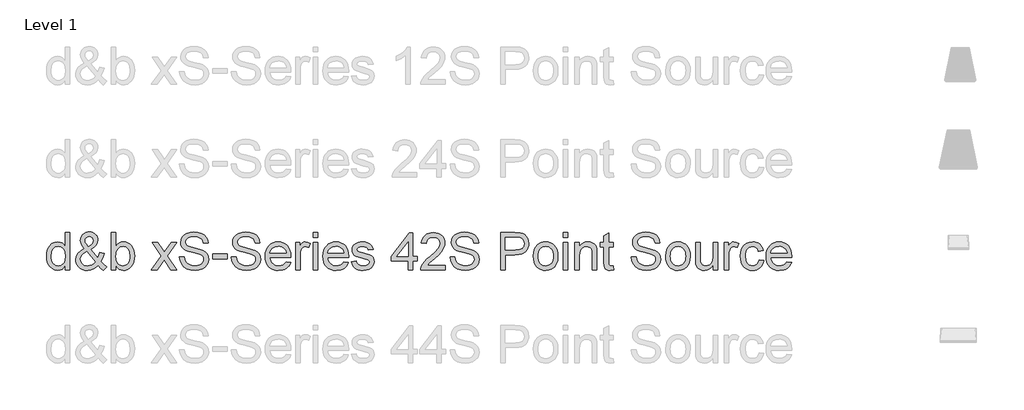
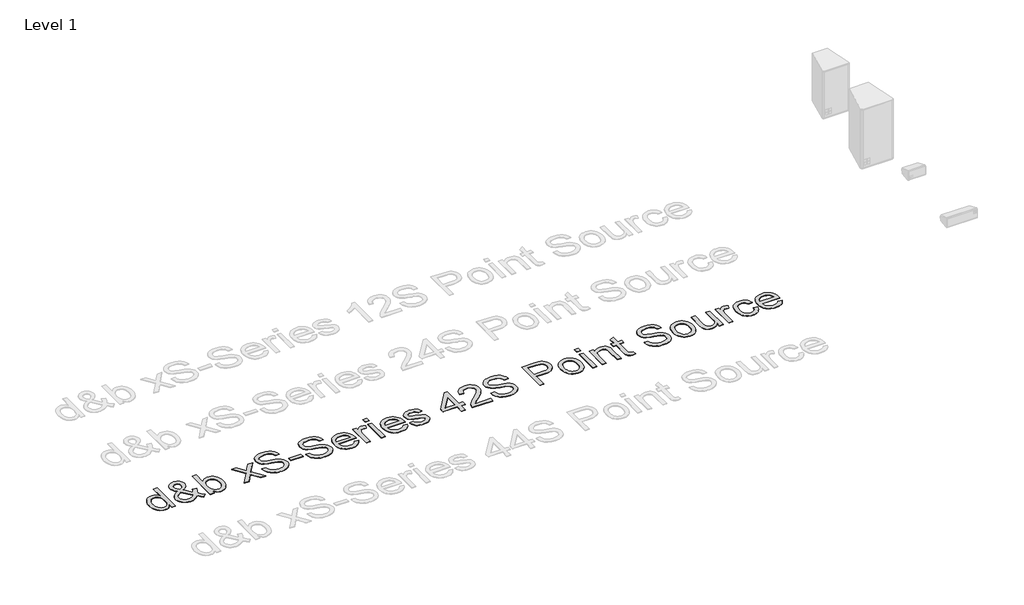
# One storey, part 44 of 55: 1 proxy.
"""IFC4 building model written with IfcOpenShell, lengths in millimetres."""

from ifc_helpers import new_model, si_unit, origin, origin_with_axes, place, context, project, spatial, polyline, outline, extrude, element, save

model = new_model("IFC4")

# Units and contexts
model_context = context("Model", 3, world=origin())
ifc_project = project(units=[si_unit("LENGTHUNIT", "METRE", prefix="MILLI")], contexts=[model_context])

# Site, building, storey
site = spatial("IfcSite", under=ifc_project)
building = spatial("IfcBuilding", under=site)
storey = spatial("IfcBuildingStorey", under=building, Name="Level 1", Elevation=0.0)

# Proxy
placement = place(None, origin())
element("IfcBuildingElementProxy", 1, Name="400mm Arial", ObjectType="400mm Arial", at=placement, inside=storey, context=model_context, shape_type="SweptSolid", body=[
    extrude(outline(polyline([(-20879.8211974, 10351.3054836), (-20879.8211974, 10398.6886846), (-20894.8491769, 10375.2116819), (-20913.0532043, 10358.4423943), (-20934.4332796, 10348.3808217), (-20958.9894028, 10345.0269642), (-20991.4611202, 10349.8830065), (-21021.1859854, 10364.4511335), (-21046.3491139, 10387.7135384), (-21065.1356211, 10418.6524142), (-21076.8342686, 10456.0169621), (-21080.7338177, 10498.5563835), (-21077.1408369, 10540.5685074), (-21066.3618944, 10578.5094038), (-21048.4092531, 10610.2208318), (-21023.2951755, 10633.5445503), (-20992.9203855, 10647.8919481), (-20959.1856065, 10652.674414), (-20934.6110892, 10649.2531115), (-20912.8815261, 10638.9892038), (-20894.4629008, 10623.2561171), (-20879.8211974, 10603.4272776), (-20879.8211974, 10753.1307242), (-20829.5930424, 10753.1307242), (-20829.5930424, 10351.3054836), (-20879.8211974, 10351.3054836)]), holes=[polyline([(-21030.5056627, 10498.7525872), (-21029.089317, 10474.3957335), (-21024.8402799, 10453.3191608), (-21017.7585515, 10435.5228693), (-21007.8441318, 10421.0068589), (-20983.1469871, 10401.6930542), (-20969.2717046, 10396.864603), (-20954.3786151, 10395.2551193), (-20939.415015, 10396.7910266), (-20925.6225058, 10401.3987486), (-20901.5507606, 10419.8296365), (-20892.0440767, 10433.7386416), (-20885.2535882, 10450.8911397), (-20879.8211974, 10494.9266145), (-20885.3516901, 10543.0701049), (-20892.2648059, 10561.6052261), (-20901.9431681, 10576.4492646), (-20913.6448812, 10587.8229496), (-20926.6280499, 10595.9470104), (-20940.8926743, 10600.8214468), (-20956.4387543, 10602.4462589), (-20971.6261493, 10600.8858262), (-20985.5014319, 10596.2045278), (-20998.064602, 10588.4023638), (-21009.3156597, 10577.4793342), (-21018.586286, 10563.1963157), (-21025.2081619, 10545.3141851), (-21030.5056627, 10498.7525872)])]), origin_with_axes(), (0.0, 0.0, 1.0), 5.0),
    extrude(outline(polyline([(-20523.809528, 10400.9450275), (-20549.3405384, 10376.4808748), (-20577.0788409, 10359.00648), (-20607.0734862, 10348.5218431), (-20639.3735254, 10345.0269642), (-20668.6814577, 10347.6144009), (-20694.8010793, 10355.376711), (-20717.7323904, 10368.3138945), (-20737.4753908, 10386.4259514), (-20750.308341, 10403.7961129), (-20759.4747341, 10422.1595558), (-20764.9745699, 10441.5162802), (-20766.8078485, 10461.8662859), (-20760.9094739, 10497.0603301), (-20743.2143499, 10528.6736562), (-20713.796053, 10556.6817387), (-20672.7281596, 10581.0600523), (-20694.6416638, 10609.4114914), (-20707.7995765, 10631.8768186), (-20714.3846642, 10651.0557332), (-20716.5796934, 10669.5479349), (-20714.8506481, 10687.1020374), (-20709.6635119, 10703.4666548), (-20701.018285, 10718.6417871), (-20688.9149674, 10732.6274343), (-20674.1935562, 10744.3444759), (-20657.6940487, 10752.7137912), (-20639.4164449, 10757.7353805), (-20619.3607448, 10759.4092436), (-20600.212487, 10757.8089569), (-20582.8913764, 10753.0080968), (-20567.397413, 10745.0066634), (-20553.7305969, 10733.8046567), (-20542.5715097, 10720.3585698), (-20534.6007332, 10705.6248959), (-20529.8182672, 10689.603635), (-20528.2241119, 10672.2947871), (-20532.9452642, 10644.31123), (-20547.108721, 10618.436863), (-20570.7144823, 10594.6716861), (-20603.7625482, 10573.0156993), (-20531.069066, 10482.4676776), (-20518.6837055, 10508.3420446), (-20509.3885538, 10538.0914353), (-20459.1603987, 10527.2021282), (-20474.6114425, 10480.6773185), (-20494.6732739, 10444.5022557), (-20466.1256311, 10411.1966724), (-20434.0463211, 10383.6790991), (-20471.7174374, 10345.0269642), (-20497.3465498, 10368.47331), (-20523.809528, 10400.9450275)]), holes=[polyline([(-20557.4584678, 10437.1446158), (-20647.1235727, 10549.0788442), (-20681.3733865, 10527.2266537), (-20702.305872, 10506.9931439), (-20713.0112381, 10487.6670765), (-20716.5796934, 10468.5372127), (-20711.6991256, 10444.8456122), (-20697.0574222, 10420.2710949), (-20686.2784798, 10409.3266056), (-20673.4639236, 10401.5091132), (-20658.6137537, 10396.8186177), (-20641.7279702, 10395.2551193), (-20619.0051256, 10398.1736498), (-20595.5710425, 10406.9292412), (-20574.1480476, 10420.3201459), (-20557.4584678, 10437.1446158)]), polyline([(-20629.1709314, 10604.7026019), (-20602.9041569, 10621.3676562), (-20587.8700461, 10635.8499441), (-20580.8067117, 10649.9398245), (-20578.452267, 10665.4276565), (-20581.5547385, 10682.9756277), (-20590.862153, 10696.9674062), (-20604.829406, 10706.1276679), (-20621.9113933, 10709.1810885), (-20639.3612626, 10706.1521934), (-20653.6473468, 10697.0655081), (-20663.1754905, 10683.6132898), (-20666.3515384, 10667.4877957), (-20662.0350563, 10649.0936959), (-20648.9875082, 10628.639457), (-20629.1709314, 10604.7026019)])]), origin_with_axes(), (0.0, 0.0, 1.0), 5.0),
    extrude(outline(polyline([(-20333.590011, 10351.3054836), (-20383.8181661, 10351.3054836), (-20383.8181661, 10753.1307242), (-20333.590011, 10753.1307242), (-20333.590011, 10604.1139907), (-20317.0721094, 10625.3591759), (-20298.4204923, 10640.5343082), (-20277.6351595, 10649.6393876), (-20254.7161112, 10652.674414), (-20228.8417442, 10649.9398245), (-20204.3898543, 10641.736056), (-20182.758393, 10628.5781433), (-20165.3453119, 10610.9811212), (-20151.6968898, 10589.116668), (-20141.3594058, 10563.1564619), (-20134.8478945, 10534.1796234), (-20132.6773907, 10503.265273), (-20134.9245365, 10467.5929822), (-20141.6659741, 10436.2126481), (-20152.9017034, 10409.1242705), (-20168.6317244, 10386.3278495), (-20187.5132678, 10368.2587122), (-20208.2035643, 10355.3521855), (-20230.702614, 10347.6082695), (-20255.0104168, 10345.0269642), (-20278.6836232, 10348.3562962), (-20299.671291, 10358.3442924), (-20317.9734203, 10374.9909527), (-20333.590011, 10398.2962771), (-20333.590011, 10351.3054836)]), holes=[polyline([(-20333.590011, 10500.9108283), (-20330.1564457, 10459.0213318), (-20319.8557498, 10430.6698927), (-20307.6849872, 10415.1759293), (-20293.5399244, 10404.1088126), (-20277.4205617, 10397.4685426), (-20259.3268989, 10395.2551193), (-20244.3050508, 10396.8860628), (-20230.3377977, 10401.7788933), (-20217.4251396, 10409.9336109), (-20205.5670767, 10421.3502155), (-20195.6526569, 10435.9980502), (-20188.5709285, 10453.8464584), (-20184.3218914, 10474.8954399), (-20182.9055458, 10499.1449947), (-20188.3379366, 10545.1057186), (-20195.1284251, 10562.8989445), (-20204.6351089, 10577.2340795), (-20216.0670419, 10588.264408), (-20228.6332778, 10596.1432141), (-20242.3338164, 10600.8704977), (-20257.1686579, 10602.4462589), (-20272.190506, 10600.8153154), (-20286.1577591, 10595.9224849), (-20299.0704171, 10587.7677673), (-20310.9284801, 10576.3511628), (-20320.8428999, 10561.8504808), (-20327.9246283, 10544.443531), (-20332.1736653, 10524.1303135), (-20333.590011, 10500.9108283)])]), origin_with_axes(), (0.0, 0.0, 1.0), 5.0),
    extrude(outline(polyline([(-19950.6003285, 10351.3054836), (-19843.2768878, 10499.7336059), (-19944.3218092, 10646.3958946), (-19884.0872638, 10646.3958946), (-19835.3306367, 10575.6644497), (-19812.4729021, 10542.4079173), (-19792.6563253, 10569.6802359), (-19737.1306695, 10646.3958946), (-19676.6999204, 10646.3958946), (-19782.8461387, 10499.635504), (-19680.623995, 10351.3054836), (-19740.9566422, 10351.3054836), (-19802.5646137, 10440.5781811), (-19813.7482263, 10456.9611926), (-19890.1695795, 10351.3054836), (-19950.6003285, 10351.3054836)])), origin_with_axes(), (0.0, 0.0, 1.0), 5.0),
    extrude(outline(polyline([(-19649.2313981, 10489.43291), (-19599.003243, 10489.43291), (-19593.2397584, 10461.5597175), (-19582.8164352, 10439.155704), (-19566.556051, 10421.3747409), (-19543.2813835, 10407.3706996), (-19514.8318425, 10398.2840144), (-19483.0468381, 10395.2551193), (-19455.063281, 10397.5482504), (-19430.5623402, 10404.4276437), (-19410.7089752, 10415.3169507), (-19396.6681457, 10429.6398231), (-19388.3172244, 10446.0841483), (-19385.533584, 10463.3378138), (-19387.6182486, 10480.150021), (-19393.8722425, 10494.6813598), (-19406.5764341, 10507.0789831), (-19428.0116917, 10517.4900435), (-19501.1466323, 10536.6689582), (-19549.1552327, 10549.360887), (-19579.8733793, 10561.4396792), (-19604.8770922, 10578.3377255), (-19622.5967416, 10598.8164899), (-19633.1549549, 10622.434514), (-19636.6743593, 10648.7503394), (-19632.3210891, 10678.1686363), (-19619.2612782, 10705.6003704), (-19597.8382834, 10728.8505125), (-19568.395461, 10745.7240333), (-19533.054264, 10755.987941), (-19493.9361452, 10759.4092436), (-19451.5561394, 10755.8285255), (-19414.4736342, 10745.0863712), (-19384.013005, 10727.40351), (-19361.4986269, 10703.000671), (-19347.249331, 10673.3984331), (-19341.5839483, 10640.1173753), (-19391.8121033, 10640.1173753), (-19401.0336787, 10670.0874951), (-19409.3968627, 10681.9455581), (-19420.2616443, 10691.7189564), (-19450.3053406, 10704.8155555), (-19491.9741079, 10709.1810885), (-19534.6238939, 10704.8646064), (-19550.9271976, 10699.4690038), (-19563.8827752, 10691.9151602), (-19580.805347, 10672.8588728), (-19586.4462043, 10650.2218674), (-19582.4485532, 10630.9203254), (-19570.4556002, 10615.3957052), (-19542.1041611, 10601.5142912), (-19488.4424407, 10587.3385717), (-19433.0639377, 10573.8740907), (-19399.5621507, 10562.1263923), (-19370.9286687, 10543.9039708), (-19350.9526764, 10521.4141181), (-19339.2172408, 10494.902089), (-19335.3054289, 10464.6131381), (-19339.805852, 10433.6497368), (-19353.3071212, 10404.5257455), (-19375.2574136, 10379.4607189), (-19405.1049061, 10360.6742117), (-19440.9979261, 10348.9387761), (-19481.0848008, 10345.0269642), (-19530.2951491, 10349.2453444), (-19570.7989567, 10361.900485), (-19603.0622077, 10383.041437), (-19627.5508858, 10412.7172513), (-19643.2717098, 10448.8677887), (-19649.2313981, 10489.43291)])), origin_with_axes(), (0.0, 0.0, 1.0), 5.0),
    extrude(outline(polyline([(-19291.3557932, 10470.5973519), (-19291.3557932, 10520.825507), (-19134.3928086, 10520.825507), (-19134.3928086, 10470.5973519), (-19291.3557932, 10470.5973519)])), origin_with_axes(), (0.0, 0.0, 1.0), 5.0),
    extrude(outline(polyline([(-19090.4431729, 10489.43291), (-19040.2150178, 10489.43291), (-19034.4515332, 10461.5597175), (-19024.02821, 10439.155704), (-19007.7678258, 10421.3747409), (-18984.4931583, 10407.3706996), (-18956.0436173, 10398.2840144), (-18924.2586129, 10395.2551193), (-18896.2750558, 10397.5482504), (-18871.774115, 10404.4276437), (-18851.9207499, 10415.3169507), (-18837.8799205, 10429.6398231), (-18829.5289992, 10446.0841483), (-18826.7453587, 10463.3378138), (-18828.8300234, 10480.150021), (-18835.0840173, 10494.6813598), (-18847.7882089, 10507.0789831), (-18869.2234665, 10517.4900435), (-18942.3584071, 10536.6689582), (-18990.3670075, 10549.360887), (-19021.0851541, 10561.4396792), (-19046.088867, 10578.3377255), (-19063.8085164, 10598.8164899), (-19074.3667297, 10622.434514), (-19077.8861341, 10648.7503394), (-19073.5328638, 10678.1686363), (-19060.473053, 10705.6003704), (-19039.0500582, 10728.8505125), (-19009.6072358, 10745.7240333), (-18974.2660388, 10755.987941), (-18935.14792, 10759.4092436), (-18892.7679141, 10755.8285255), (-18855.685409, 10745.0863712), (-18825.2247798, 10727.40351), (-18802.7104017, 10703.000671), (-18788.4611058, 10673.3984331), (-18782.7957231, 10640.1173753), (-18833.0238781, 10640.1173753), (-18842.2454535, 10670.0874951), (-18850.6086375, 10681.9455581), (-18861.4734191, 10691.7189564), (-18891.5171154, 10704.8155555), (-18933.1858827, 10709.1810885), (-18975.8356687, 10704.8646064), (-18992.1389724, 10699.4690038), (-19005.09455, 10691.9151602), (-19022.0171218, 10672.8588728), (-19027.657979, 10650.2218674), (-19023.660328, 10630.9203254), (-19011.667375, 10615.3957052), (-18983.3159359, 10601.5142912), (-18929.6542155, 10587.3385717), (-18874.2757125, 10573.8740907), (-18840.7739255, 10562.1263923), (-18812.1404435, 10543.9039708), (-18792.1644512, 10521.4141181), (-18780.4290156, 10494.902089), (-18776.5172037, 10464.6131381), (-18781.0176267, 10433.6497368), (-18794.518896, 10404.5257455), (-18816.4691883, 10379.4607189), (-18846.3166809, 10360.6742117), (-18882.2097009, 10348.9387761), (-18922.2965756, 10345.0269642), (-18971.5069238, 10349.2453444), (-19012.0107315, 10361.900485), (-19044.2739825, 10383.041437), (-19068.7626606, 10412.7172513), (-19084.4834846, 10448.8677887), (-19090.4431729, 10489.43291)])), origin_with_axes(), (0.0, 0.0, 1.0), 5.0),
    extrude(outline(polyline([(-18500.850962, 10439.204755), (-18451.6038255, 10432.9262356), (-18459.1546035, 10413.2016293), (-18469.3480004, 10395.819205), (-18482.1840164, 10380.7789628), (-18497.6626513, 10368.0809026), (-18515.6244897, 10357.9948045), (-18535.9101161, 10350.7904488), (-18583.4527326, 10345.0269642), (-18614.618469, 10347.5132333), (-18642.3874282, 10354.9720408), (-18666.7596104, 10367.4033865), (-18687.7350155, 10384.8072706), (-18704.602405, 10406.699315), (-18716.6505403, 10432.5951418), (-18723.8794215, 10462.4947509), (-18726.2890486, 10496.3981425), (-18723.8548961, 10531.4511652), (-18716.5524385, 10562.3471215), (-18704.3816758, 10589.0860112), (-18687.342608, 10611.6678343), (-18666.4223852, 10629.6082129), (-18642.6081574, 10642.4227691), (-18615.8999246, 10650.1115028), (-18586.2976867, 10652.674414), (-18557.6488763, 10650.1176342), (-18531.7407868, 10642.4472946), (-18508.5734182, 10629.6633952), (-18488.1467704, 10611.7659362), (-18471.472519, 10589.233164), (-18459.5623394, 10562.5433252), (-18452.4162316, 10531.6964199), (-18450.0341957, 10496.6924481), (-18450.3285013, 10483.1543906), (-18676.0608935, 10483.1543906), (-18673.1515601, 10463.1109533), (-18667.3666157, 10445.5568507), (-18658.7060604, 10430.492083), (-18647.1698942, 10417.9166502), (-18633.3957791, 10408.0022304), (-18618.0213774, 10400.920502), (-18582.4717139, 10395.2551193), (-18555.7389556, 10397.8793442), (-18533.2245775, 10405.7520189), (-18514.9285796, 10419.3636527), (-18500.850962, 10439.204755)]), holes=[polyline([(-18676.0608935, 10533.3825457), (-18500.2623508, 10533.3825457), (-18507.0559049, 10559.9191003), (-18520.3732332, 10578.9018113), (-18534.0707061, 10589.2025071), (-18549.65664, 10596.560147), (-18567.1310348, 10600.974731), (-18586.4938904, 10602.4462589), (-18620.3512967, 10597.7496321), (-18648.3471166, 10583.6597517), (-18667.8080741, 10561.6971966), (-18676.0608935, 10533.3825457)])]), origin_with_axes(), (0.0, 0.0, 1.0), 5.0),
    extrude(outline(polyline([(-18399.8060406, 10351.3054836), (-18399.8060406, 10646.3958946), (-18355.8564049, 10646.3958946), (-18355.8564049, 10602.7405645), (-18339.6205462, 10628.0508458), (-18324.6600117, 10642.9623293), (-18309.6504263, 10650.2463929), (-18293.2674148, 10652.674414), (-18268.2514391, 10648.7993903), (-18242.843056, 10637.1743193), (-18259.618475, 10592.1455631), (-18277.2768108, 10599.871085), (-18294.9351465, 10602.4462589), (-18309.9324692, 10599.9691868), (-18323.3356365, 10592.5379705), (-18334.1636299, 10580.7166958), (-18341.4354307, 10565.0694482), (-18347.5422718, 10537.0123147), (-18349.5778855, 10506.4045327), (-18349.5778855, 10351.3054836), (-18399.8060406, 10351.3054836)])), origin_with_axes(), (0.0, 0.0, 1.0), 5.0),
    extrude(outline(polyline([(-18211.4504591, 10702.9025691), (-18211.4504591, 10753.1307242), (-18161.222304, 10753.1307242), (-18161.222304, 10702.9025691), (-18211.4504591, 10702.9025691)])), origin_with_axes(), (0.0, 0.0, 1.0), 5.0),
    extrude(outline(polyline([(-18211.4504591, 10351.3054836), (-18211.4504591, 10646.3958946), (-18161.222304, 10646.3958946), (-18161.222304, 10351.3054836), (-18211.4504591, 10351.3054836)])), origin_with_axes(), (0.0, 0.0, 1.0), 5.0),
    extrude(outline(polyline([(-17879.2775429, 10439.204755), (-17830.0304065, 10432.9262356), (-17837.5811844, 10413.2016293), (-17847.7745814, 10395.819205), (-17860.6105973, 10380.7789628), (-17876.0892323, 10368.0809026), (-17894.0510707, 10357.9948045), (-17914.336697, 10350.7904488), (-17961.8793136, 10345.0269642), (-17993.0450499, 10347.5132333), (-18020.8140092, 10354.9720408), (-18045.1861914, 10367.4033865), (-18066.1615965, 10384.8072706), (-18083.0289859, 10406.699315), (-18095.0771213, 10432.5951418), (-18102.3060025, 10462.4947509), (-18104.7156295, 10496.3981425), (-18102.281477, 10531.4511652), (-18094.9790194, 10562.3471215), (-18082.8082567, 10589.0860112), (-18065.769189, 10611.6678343), (-18044.8489662, 10629.6082129), (-18021.0347384, 10642.4227691), (-17994.3265055, 10650.1115028), (-17964.7242676, 10652.674414), (-17936.0754573, 10650.1176342), (-17910.1673678, 10642.4472946), (-17886.9999991, 10629.6633952), (-17866.5733513, 10611.7659362), (-17849.8990999, 10589.233164), (-17837.9889203, 10562.5433252), (-17830.8428126, 10531.6964199), (-17828.4607766, 10496.6924481), (-17828.7550822, 10483.1543906), (-18054.4874745, 10483.1543906), (-18051.578141, 10463.1109533), (-18045.7931967, 10445.5568507), (-18037.1326413, 10430.492083), (-18025.5964751, 10417.9166502), (-18011.8223601, 10408.0022304), (-17996.4479584, 10400.920502), (-17960.8982949, 10395.2551193), (-17934.1655366, 10397.8793442), (-17911.6511585, 10405.7520189), (-17893.3551606, 10419.3636527), (-17879.2775429, 10439.204755)]), holes=[polyline([(-18054.4874745, 10533.3825457), (-17878.6889317, 10533.3825457), (-17885.4824859, 10559.9191003), (-17898.7998141, 10578.9018113), (-17912.4972871, 10589.2025071), (-17928.0832209, 10596.560147), (-17945.5576157, 10600.974731), (-17964.9204714, 10602.4462589), (-17998.7778777, 10597.7496321), (-18026.7736975, 10583.6597517), (-18046.234655, 10561.6971966), (-18054.4874745, 10533.3825457)])]), origin_with_axes(), (0.0, 0.0, 1.0), 5.0),
    extrude(outline(polyline([(-17797.0681797, 10439.204755), (-17746.8400246, 10445.4832743), (-17738.918299, 10423.9989658), (-17723.5898825, 10408.2045655), (-17700.7566734, 10398.4924808), (-17670.3205696, 10395.2551193), (-17640.2523479, 10398.2227007), (-17619.1113959, 10407.125445), (-17606.6034081, 10420.0258403), (-17602.4340788, 10434.9863747), (-17606.6279335, 10447.7886682), (-17619.2094978, 10457.5498038), (-17670.9091808, 10471.8726761), (-17746.545719, 10496.4471934), (-17765.6878455, 10508.7957657), (-17779.5569967, 10525.141989), (-17787.9814944, 10544.443531), (-17790.7896603, 10565.6580594), (-17788.5333174, 10585.119017), (-17781.7642887, 10603.0839211), (-17771.0957109, 10618.8415332), (-17757.1407205, 10631.6806148), (-17725.2085633, 10646.5430474), (-17704.3251287, 10651.1415724), (-17681.9946916, 10652.674414), (-17649.302245, 10650.2096047), (-17620.8772295, 10642.8151766), (-17598.0194949, 10631.214631), (-17582.0288908, 10616.1314692), (-17571.4338893, 10596.4497824), (-17564.7629625, 10571.053662), (-17614.9911176, 10564.7751426), (-17621.3309506, 10580.5818057), (-17633.8757267, 10592.4889196), (-17652.748073, 10599.9569241), (-17678.070617, 10602.4462589), (-17706.9125654, 10600.0672887), (-17726.140531, 10592.930378), (-17736.9562617, 10582.6296821), (-17740.5615053, 10570.7593564), (-17734.5772915, 10556.1421785), (-17715.8398352, 10545.0566677), (-17672.5769125, 10534.3635644), (-17598.8533607, 10510.7210148), (-17579.3801404, 10499.4147748), (-17564.6158097, 10483.9392056), (-17555.3083952, 10464.2452561), (-17552.2059237, 10440.2838755), (-17555.8479555, 10415.5131545), (-17566.7740507, 10392.2139614), (-17584.5672766, 10372.2134436), (-17608.8107, 10357.3387483), (-17638.0941069, 10348.1049102), (-17671.0072827, 10345.0269642), (-17698.040478, 10346.5107549), (-17721.6523707, 10350.962127), (-17741.8429609, 10358.3810806), (-17758.6122485, 10368.7676156), (-17772.3097214, 10382.0726811), (-17783.2848676, 10398.2472262), (-17791.5376871, 10417.2912508), (-17797.0681797, 10439.204755)])), origin_with_axes(), (0.0, 0.0, 1.0), 5.0),
    extrude(outline(polyline([(-17188.0517994, 10351.3054836), (-17188.0517994, 10445.4832743), (-17370.1288616, 10445.4832743), (-17370.1288616, 10495.7114294), (-17175.4947607, 10746.8522048), (-17137.8236444, 10746.8522048), (-17137.8236444, 10495.7114294), (-17087.5954893, 10495.7114294), (-17087.5954893, 10445.4832743), (-17137.8236444, 10445.4832743), (-17137.8236444, 10351.3054836), (-17188.0517994, 10351.3054836)]), holes=[polyline([(-17188.0517994, 10495.7114294), (-17188.0517994, 10650.9085804), (-17308.3246864, 10495.7114294), (-17188.0517994, 10495.7114294)])]), origin_with_axes(), (0.0, 0.0, 1.0), 5.0),
    extrude(outline(polyline([(-16786.2265588, 10401.5336386), (-16786.2265588, 10351.3054836), (-17049.924373, 10351.3054836), (-17048.820727, 10368.9883448), (-17044.5287704, 10385.9354421), (-17032.1311471, 10412.9992942), (-17013.9700393, 10439.2538059), (-16987.7155276, 10466.7345909), (-16951.0376927, 10497.477263), (-16896.8486748, 10545.6207534), (-16864.3646946, 10581.1581542), (-16848.1410986, 10610.0001026), (-16842.7332333, 10638.0572361), (-16847.846793, 10663.2081018), (-16863.1874722, 10684.1160619), (-16886.7687081, 10698.2059423), (-16916.6039379, 10702.9025691), (-16947.9352212, 10698.3163069), (-16972.2767465, 10684.5575203), (-16987.9853077, 10662.7053298), (-16993.4176985, 10633.8388559), (-17043.6458536, 10640.1173753), (-17039.3263058, 10666.0469245), (-17031.4689596, 10688.7023241), (-17020.0738147, 10708.0835739), (-17005.1408714, 10724.1906739), (-16987.0134861, 10736.8519459), (-16966.0350153, 10745.8957116), (-16942.2054591, 10751.321971), (-16915.5248174, 10753.1307242), (-16888.6050524, 10751.1196359), (-16864.6467375, 10745.0863712), (-16843.6498726, 10735.03093), (-16825.6144578, 10720.9533123), (-16811.1291042, 10703.8958505), (-16800.7824231, 10684.9008768), (-16794.5744144, 10663.9683913), (-16792.5050782, 10641.0983939), (-16794.7368957, 10617.0756996), (-16801.432348, 10593.4699383), (-16813.3149364, 10569.4595067), (-16831.1081622, 10544.2228018), (-16859.4718641, 10514.0932664), (-16903.0658805, 10475.4043433), (-16960.8478792, 10427.0891746), (-16983.5094101, 10401.5336386), (-16786.2265588, 10401.5336386)])), origin_with_axes(), (0.0, 0.0, 1.0), 5.0),
    extrude(outline(polyline([(-16735.9984038, 10489.43291), (-16685.7702487, 10489.43291), (-16680.0067641, 10461.5597175), (-16669.5834409, 10439.155704), (-16653.3230567, 10421.3747409), (-16630.0483891, 10407.3706996), (-16601.5988482, 10398.2840144), (-16569.8138438, 10395.2551193), (-16541.8302867, 10397.5482504), (-16517.3293458, 10404.4276437), (-16497.4759808, 10415.3169507), (-16483.4351513, 10429.6398231), (-16475.08423, 10446.0841483), (-16472.3005896, 10463.3378138), (-16474.3852543, 10480.150021), (-16480.6392482, 10494.6813598), (-16493.3434397, 10507.0789831), (-16514.7786973, 10517.4900435), (-16587.913638, 10536.6689582), (-16635.9222383, 10549.360887), (-16666.6403849, 10561.4396792), (-16691.6440979, 10578.3377255), (-16709.3637473, 10598.8164899), (-16719.9219606, 10622.434514), (-16723.441365, 10648.7503394), (-16719.0880947, 10678.1686363), (-16706.0282839, 10705.6003704), (-16684.605289, 10728.8505125), (-16655.1624667, 10745.7240333), (-16619.8212697, 10755.987941), (-16580.7031509, 10759.4092436), (-16538.323145, 10755.8285255), (-16501.2406399, 10745.0863712), (-16470.7800107, 10727.40351), (-16448.2656326, 10703.000671), (-16434.0163367, 10673.3984331), (-16428.3509539, 10640.1173753), (-16478.579109, 10640.1173753), (-16487.8006843, 10670.0874951), (-16496.1638684, 10681.9455581), (-16507.02865, 10691.7189564), (-16537.0723462, 10704.8155555), (-16578.7411136, 10709.1810885), (-16621.3908995, 10704.8646064), (-16637.6942033, 10699.4690038), (-16650.6497809, 10691.9151602), (-16667.5723527, 10672.8588728), (-16673.2132099, 10650.2218674), (-16669.2155589, 10630.9203254), (-16657.2226059, 10615.3957052), (-16628.8711668, 10601.5142912), (-16575.2094464, 10587.3385717), (-16519.8309434, 10573.8740907), (-16486.3291564, 10562.1263923), (-16457.6956744, 10543.9039708), (-16437.7196821, 10521.4141181), (-16425.9842464, 10494.902089), (-16422.0724345, 10464.6131381), (-16426.5728576, 10433.6497368), (-16440.0741268, 10404.5257455), (-16462.0244192, 10379.4607189), (-16491.8719118, 10360.6742117), (-16527.7649318, 10348.9387761), (-16567.8518065, 10345.0269642), (-16617.0621547, 10349.2453444), (-16657.5659624, 10361.900485), (-16689.8292134, 10383.041437), (-16714.3178915, 10412.7172513), (-16730.0387154, 10448.8677887), (-16735.9984038, 10489.43291)])), origin_with_axes(), (0.0, 0.0, 1.0), 5.0),
    extrude(outline(polyline([(-16189.7672173, 10351.3054836), (-16189.7672173, 10753.1307242), (-16040.8485857, 10753.1307242), (-15980.8102441, 10749.3047514), (-15954.0406975, 10742.155578), (-15932.004566, 10730.5182442), (-15914.2603911, 10713.8654526), (-15900.3667144, 10691.6699055), (-15891.3903938, 10665.4889702), (-15888.3982869, 10636.8800137), (-15890.4185722, 10612.2135259), (-15896.479428, 10589.5213382), (-15906.5808545, 10568.8034505), (-15920.7228515, 10550.0598628), (-15940.1378238, 10534.5229799), (-15966.0581761, 10523.4252064), (-15998.4839082, 10516.7665423), (-16037.4150204, 10514.5469876), (-16139.5390622, 10514.5469876), (-16139.5390622, 10351.3054836), (-16189.7672173, 10351.3054836)]), holes=[polyline([(-16139.5390622, 10564.7751426), (-16034.4719644, 10564.7751426), (-15989.9337175, 10569.3859303), (-15973.3299768, 10575.1494149), (-15960.5031579, 10583.2182933), (-15950.9320947, 10593.3779678), (-15944.0956209, 10605.4138404), (-15938.6264419, 10635.1141801), (-15941.8515408, 10657.6776092), (-15951.5268372, 10676.709371), (-15966.4505835, 10691.0322434), (-15985.4210317, 10699.4690038), (-16035.6491868, 10702.9025691), (-16139.5390622, 10702.9025691), (-16139.5390622, 10564.7751426)])]), origin_with_axes(), (0.0, 0.0, 1.0), 5.0),
    extrude(outline(polyline([(-15838.1701318, 10498.8506891), (-15835.4539364, 10537.067497), (-15827.3053502, 10569.999067), (-15813.7243732, 10597.6453989), (-15794.7110054, 10620.0064928), (-15775.5688789, 10634.2987084), (-15754.4401897, 10644.5074337), (-15731.3249377, 10650.6326689), (-15706.2231229, 10652.674414), (-15678.5124116, 10650.1881449), (-15653.456582, 10642.7293374), (-15631.0556342, 10630.2979917), (-15611.3095681, 10612.8941076), (-15595.193271, 10591.1062964), (-15583.6816303, 10565.5231694), (-15576.7746458, 10536.1447264), (-15574.4723177, 10502.9709675), (-15578.5435451, 10452.2277776), (-15590.7572273, 10413.6001681), (-15610.7577451, 10384.6723805), (-15638.1894792, 10363.0286565), (-15670.7715613, 10349.5273873), (-15706.2231229, 10345.0269642), (-15734.3385043, 10347.5040363), (-15759.6273258, 10354.9352526), (-15782.0895873, 10367.3206131), (-15801.7252888, 10384.6601178), (-15817.6699076, 10406.6594611), (-15829.058921, 10433.0243374), (-15835.8923291, 10463.7547468), (-15838.1701318, 10498.8506891)]), holes=[polyline([(-15787.9419767, 10498.948791), (-15786.4888428, 10474.5858058), (-15782.1294412, 10453.4908391), (-15774.8637718, 10435.6638907), (-15764.6918346, 10421.1049608), (-15752.3187369, 10409.7956551), (-15738.4495856, 10401.7175796), (-15723.084381, 10396.8707344), (-15706.2231229, 10395.2551193), (-15689.4477039, 10396.8799314), (-15674.1438129, 10401.7543678), (-15660.3114499, 10409.8784286), (-15647.9506148, 10421.2521136), (-15637.7786777, 10435.9551307), (-15630.5130083, 10454.0671876), (-15626.1536066, 10475.5882843), (-15624.7004727, 10500.5184208), (-15626.1628037, 10524.1088538), (-15630.5497965, 10544.6519975), (-15637.8614511, 10562.1478521), (-15648.0977676, 10576.5964174), (-15660.5045879, 10587.9057231), (-15674.3277539, 10595.9837986), (-15689.5672655, 10600.8306439), (-15706.2231229, 10602.4462589), (-15723.084381, 10600.8367752), (-15738.4495856, 10596.008324), (-15752.3187369, 10587.9609054), (-15764.6918346, 10576.6945193), (-15774.8637718, 10562.1785089), (-15782.1294412, 10544.3822174), (-15786.4888428, 10523.3056447), (-15787.9419767, 10498.948791)])]), origin_with_axes(), (0.0, 0.0, 1.0), 5.0),
    extrude(outline(polyline([(-15517.9656432, 10351.3054836), (-15517.9656432, 10646.3958946), (-15467.7374881, 10646.3958946), (-15467.7374881, 10351.3054836), (-15517.9656432, 10351.3054836)])), origin_with_axes(), (0.0, 0.0, 1.0), 5.0),
    extrude(outline(polyline([(-15517.9656432, 10702.9025691), (-15517.9656432, 10753.1307242), (-15467.7374881, 10753.1307242), (-15467.7374881, 10702.9025691), (-15517.9656432, 10702.9025691)])), origin_with_axes(), (0.0, 0.0, 1.0), 5.0),
    extrude(outline(polyline([(-15392.3952555, 10351.3054836), (-15392.3952555, 10646.3958946), (-15342.1671004, 10646.3958946), (-15342.1671004, 10605.1931112), (-15324.7172311, 10625.9661812), (-15303.7602201, 10640.8040883), (-15279.2960675, 10649.7068326), (-15251.3247731, 10652.674414), (-15226.5663148, 10650.2831811), (-15203.8925212, 10643.1094821), (-15184.9833866, 10632.0484968), (-15171.5189056, 10617.9954046), (-15162.3831694, 10600.9869937), (-15156.4602693, 10581.0600523), (-15153.8115189, 10532.4996289), (-15153.8115189, 10351.3054836), (-15204.039674, 10351.3054836), (-15204.039674, 10525.7306002), (-15205.4866765, 10551.7030691), (-15209.827684, 10570.1707452), (-15217.8352488, 10583.4022343), (-15230.281923, 10593.666142), (-15246.2357388, 10600.2512297), (-15264.7647286, 10602.4462589), (-15294.1830255, 10597.5166402), (-15319.2603149, 10582.727784), (-15329.2820336, 10570.6551232), (-15336.440404, 10554.1556157), (-15340.7354263, 10533.2292616), (-15342.1671004, 10507.8760607), (-15342.1671004, 10351.3054836), (-15392.3952555, 10351.3054836)])), origin_with_axes(), (0.0, 0.0, 1.0), 5.0),
    extrude(outline(polyline([(-14978.0129761, 10393.1949801), (-14971.7344568, 10349.8339556), (-15009.3074712, 10345.0269642), (-15033.4160046, 10347.1116288), (-15051.3931714, 10353.3656227), (-15064.097363, 10363.004131), (-15072.3869706, 10375.2423387), (-15076.9487074, 10396.2606634), (-15078.4692863, 10432.2395225), (-15078.4692863, 10596.1677396), (-15116.1404026, 10596.1677396), (-15116.1404026, 10646.3958946), (-15078.4692863, 10646.3958946), (-15078.4692863, 10718.1083582), (-15028.2411312, 10747.6370197), (-15028.2411312, 10646.3958946), (-14978.0129761, 10646.3958946), (-14978.0129761, 10596.1677396), (-15028.2411312, 10596.1677396), (-15028.2411312, 10433.7110505), (-15025.5923808, 10407.812158), (-15017.0084676, 10398.6396336), (-14999.8896921, 10395.2551193), (-14978.0129761, 10393.1949801)])), origin_with_axes(), (0.0, 0.0, 1.0), 5.0),
    extrude(outline(polyline([(-14783.3788752, 10489.43291), (-14733.1507201, 10489.43291), (-14727.3872356, 10461.5597175), (-14716.9639124, 10439.155704), (-14700.7035282, 10421.3747409), (-14677.4288606, 10407.3706996), (-14648.9793197, 10398.2840144), (-14617.1943153, 10395.2551193), (-14589.2107582, 10397.5482504), (-14564.7098173, 10404.4276437), (-14544.8564523, 10415.3169507), (-14530.8156228, 10429.6398231), (-14522.4647015, 10446.0841483), (-14519.6810611, 10463.3378138), (-14521.7657257, 10480.150021), (-14528.0197196, 10494.6813598), (-14540.7239112, 10507.0789831), (-14562.1591688, 10517.4900435), (-14635.2941094, 10536.6689582), (-14683.3027098, 10549.360887), (-14714.0208564, 10561.4396792), (-14739.0245693, 10578.3377255), (-14756.7442188, 10598.8164899), (-14767.302432, 10622.434514), (-14770.8218365, 10648.7503394), (-14766.4685662, 10678.1686363), (-14753.4087554, 10705.6003704), (-14731.9857605, 10728.8505125), (-14702.5429382, 10745.7240333), (-14667.2017411, 10755.987941), (-14628.0836223, 10759.4092436), (-14585.7036165, 10755.8285255), (-14548.6211114, 10745.0863712), (-14518.1604822, 10727.40351), (-14495.6461041, 10703.000671), (-14481.3968081, 10673.3984331), (-14475.7314254, 10640.1173753), (-14525.9595805, 10640.1173753), (-14535.1811558, 10670.0874951), (-14543.5443398, 10681.9455581), (-14554.4091214, 10691.7189564), (-14584.4528177, 10704.8155555), (-14626.121585, 10709.1810885), (-14668.771371, 10704.8646064), (-14685.0746747, 10699.4690038), (-14698.0302523, 10691.9151602), (-14714.9528241, 10672.8588728), (-14720.5936814, 10650.2218674), (-14716.5960304, 10630.9203254), (-14704.6030773, 10615.3957052), (-14676.2516382, 10601.5142912), (-14622.5899179, 10587.3385717), (-14567.2114149, 10573.8740907), (-14533.7096278, 10562.1263923), (-14505.0761459, 10543.9039708), (-14485.1001535, 10521.4141181), (-14473.3647179, 10494.902089), (-14469.452906, 10464.6131381), (-14473.9533291, 10433.6497368), (-14487.4545983, 10404.5257455), (-14509.4048907, 10379.4607189), (-14539.2523832, 10360.6742117), (-14575.1454032, 10348.9387761), (-14615.232278, 10345.0269642), (-14664.4426262, 10349.2453444), (-14704.9464339, 10361.900485), (-14737.2096848, 10383.041437), (-14761.698363, 10412.7172513), (-14777.4191869, 10448.8677887), (-14783.3788752, 10489.43291)])), origin_with_axes(), (0.0, 0.0, 1.0), 5.0),
    extrude(outline(polyline([(-14412.9462315, 10498.8506891), (-14410.2300362, 10537.067497), (-14402.08145, 10569.999067), (-14388.500473, 10597.6453989), (-14369.4871052, 10620.0064928), (-14350.3449787, 10634.2987084), (-14329.2162894, 10644.5074337), (-14306.1010374, 10650.6326689), (-14280.9992226, 10652.674414), (-14253.2885113, 10650.1881449), (-14228.2326818, 10642.7293374), (-14205.8317339, 10630.2979917), (-14186.0856679, 10612.8941076), (-14169.9693708, 10591.1062964), (-14158.45773, 10565.5231694), (-14151.5507456, 10536.1447264), (-14149.2484174, 10502.9709675), (-14153.3196448, 10452.2277776), (-14165.5333271, 10413.6001681), (-14185.5338449, 10384.6723805), (-14212.965579, 10363.0286565), (-14245.547661, 10349.5273873), (-14280.9992226, 10345.0269642), (-14309.1146041, 10347.5040363), (-14334.4034256, 10354.9352526), (-14356.8656871, 10367.3206131), (-14376.5013886, 10384.6601178), (-14392.4460074, 10406.6594611), (-14403.8350208, 10433.0243374), (-14410.6684289, 10463.7547468), (-14412.9462315, 10498.8506891)]), holes=[polyline([(-14362.7180765, 10498.948791), (-14361.2649426, 10474.5858058), (-14356.9055409, 10453.4908391), (-14349.6398715, 10435.6638907), (-14339.4679344, 10421.1049608), (-14327.0948366, 10409.7956551), (-14313.2256854, 10401.7175796), (-14297.8604807, 10396.8707344), (-14280.9992226, 10395.2551193), (-14264.2238036, 10396.8799314), (-14248.9199126, 10401.7543678), (-14235.0875496, 10409.8784286), (-14222.7267146, 10421.2521136), (-14212.5547774, 10435.9551307), (-14205.289108, 10454.0671876), (-14200.9297064, 10475.5882843), (-14199.4765725, 10500.5184208), (-14200.9389034, 10524.1088538), (-14205.3258962, 10544.6519975), (-14212.6375509, 10562.1478521), (-14222.8738674, 10576.5964174), (-14235.2806877, 10587.9057231), (-14249.1038536, 10595.9837986), (-14264.3433653, 10600.8306439), (-14280.9992226, 10602.4462589), (-14297.8604807, 10600.8367752), (-14313.2256854, 10596.008324), (-14327.0948366, 10587.9609054), (-14339.4679344, 10576.6945193), (-14349.6398715, 10562.1785089), (-14356.9055409, 10544.3822174), (-14361.2649426, 10523.3056447), (-14362.7180765, 10498.948791)])]), origin_with_axes(), (0.0, 0.0, 1.0), 5.0),
    extrude(outline(polyline([(-13904.3861614, 10351.3054836), (-13904.3861614, 10402.024148), (-13922.559532, 10377.0878801), (-13943.7250094, 10359.2762601), (-13967.8825938, 10348.5892882), (-13995.032285, 10345.0269642), (-14019.4964377, 10347.5285618), (-14042.2683332, 10355.0333545), (-14061.3736715, 10366.315069), (-14074.8381525, 10380.147432), (-14083.9003123, 10396.9473764), (-14089.798687, 10417.1318352), (-14092.7417429, 10463.8283232), (-14092.7417429, 10646.3958946), (-14042.5135879, 10646.3958946), (-14042.5135879, 10487.4708727), (-14039.47243, 10436.261699), (-14032.1515783, 10419.1797117), (-14019.6068023, 10406.1934773), (-14002.6719678, 10397.9897088), (-13982.1809407, 10395.2551193), (-13960.5126911, 10398.0510224), (-13940.2423932, 10406.4387319), (-13923.5282879, 10419.6456955), (-13912.5286162, 10436.8993611), (-13906.4217751, 10460.5296479), (-13904.3861614, 10492.8664753), (-13904.3861614, 10646.3958946), (-13854.1580063, 10646.3958946), (-13854.1580063, 10351.3054836), (-13904.3861614, 10351.3054836)])), origin_with_axes(), (0.0, 0.0, 1.0), 5.0),
    extrude(outline(polyline([(-13785.0942931, 10351.3054836), (-13785.0942931, 10646.3958946), (-13741.1446574, 10646.3958946), (-13741.1446574, 10602.7405645), (-13724.9087987, 10628.0508458), (-13709.9482642, 10642.9623293), (-13694.9386788, 10650.2463929), (-13678.5556673, 10652.674414), (-13653.5396916, 10648.7993903), (-13628.1313085, 10637.1743193), (-13644.9067275, 10592.1455631), (-13662.5650633, 10599.871085), (-13680.223399, 10602.4462589), (-13695.2207217, 10599.9691868), (-13708.623889, 10592.5379705), (-13719.4518824, 10580.7166958), (-13726.7236832, 10565.0694482), (-13732.8305243, 10537.0123147), (-13734.866138, 10506.4045327), (-13734.866138, 10351.3054836), (-13785.0942931, 10351.3054836)])), origin_with_axes(), (0.0, 0.0, 1.0), 5.0),
    extrude(outline(polyline([(-13408.3831301, 10458.0403131), (-13358.154975, 10451.7617937), (-13363.6180226, 10428.0609962), (-13372.1590163, 10407.0886568), (-13383.7779559, 10388.8447755), (-13398.4748416, 10373.3293524), (-13415.6304054, 10360.9470575), (-13434.625379, 10352.1025612), (-13455.4597627, 10346.7958634), (-13478.1335563, 10345.0269642), (-13506.3041201, 10347.4948392), (-13531.5622848, 10354.8984644), (-13553.9080503, 10367.2378396), (-13573.3414167, 10384.512965), (-13589.0714377, 10406.398878), (-13600.3071669, 10432.5706163), (-13607.0486045, 10463.0281798), (-13609.2957504, 10497.7715686), (-13605.4575149, 10542.469231), (-13593.9428084, 10581.2072051), (-13574.56769, 10612.4894374), (-13547.1482186, 10634.8198745), (-13514.3454074, 10648.2107791), (-13478.8202694, 10652.674414), (-13456.5358175, 10651.1415724), (-13436.3789499, 10646.5430474), (-13418.3496664, 10638.8788392), (-13402.4479672, 10628.1489477), (-13388.9436323, 10614.5986275), (-13378.1064418, 10598.4731334), (-13369.9363959, 10579.7724653), (-13364.4334944, 10558.4966233), (-13414.6616494, 10552.2181039), (-13423.7728602, 10574.1316081), (-13437.9608425, 10589.8401692), (-13456.4407814, 10599.2947365), (-13478.4278619, 10602.4462589), (-13495.4945208, 10600.8950232), (-13510.8873166, 10596.241316), (-13524.6062494, 10588.4851372), (-13536.651319, 10577.626487), (-13546.4584399, 10563.4139793), (-13553.4635262, 10545.596228), (-13557.666578, 10524.1732331), (-13559.0675953, 10499.1449947), (-13553.5861535, 10452.0683621), (-13546.7343514, 10434.1310491), (-13537.1418284, 10419.9277384), (-13525.335882, 10409.1334675), (-13511.8438098, 10401.423274), (-13496.6656118, 10396.797158), (-13479.801288, 10395.2551193), (-13453.792031, 10399.1056175), (-13432.467138, 10410.6571121), (-13416.9547805, 10430.2039088), (-13408.3831301, 10458.0403131)])), origin_with_axes(), (0.0, 0.0, 1.0), 5.0),
    extrude(outline(polyline([(-13107.6028108, 10439.204755), (-13058.3556744, 10432.9262356), (-13065.9064523, 10413.2016293), (-13076.0998493, 10395.819205), (-13088.9358652, 10380.7789628), (-13104.4145002, 10368.0809026), (-13122.3763386, 10357.9948045), (-13142.6619649, 10350.7904488), (-13190.2045814, 10345.0269642), (-13221.3703178, 10347.5132333), (-13249.1392771, 10354.9720408), (-13273.5114593, 10367.4033865), (-13294.4868643, 10384.8072706), (-13311.3542538, 10406.699315), (-13323.4023892, 10432.5951418), (-13330.6312704, 10462.4947509), (-13333.0408974, 10496.3981425), (-13330.6067449, 10531.4511652), (-13323.3042873, 10562.3471215), (-13311.1335246, 10589.0860112), (-13294.0944569, 10611.6678343), (-13273.1742341, 10629.6082129), (-13249.3600063, 10642.4227691), (-13222.6517734, 10650.1115028), (-13193.0495355, 10652.674414), (-13164.4007252, 10650.1176342), (-13138.4926357, 10642.4472946), (-13115.325267, 10629.6633952), (-13094.8986192, 10611.7659362), (-13078.2243678, 10589.233164), (-13066.3141882, 10562.5433252), (-13059.1680804, 10531.6964199), (-13056.7860445, 10496.6924481), (-13057.0803501, 10483.1543906), (-13282.8127424, 10483.1543906), (-13279.9034089, 10463.1109533), (-13274.1184645, 10445.5568507), (-13265.4579092, 10430.492083), (-13253.921743, 10417.9166502), (-13240.147628, 10408.0022304), (-13224.7732263, 10400.920502), (-13189.2235628, 10395.2551193), (-13162.4908045, 10397.8793442), (-13139.9764264, 10405.7520189), (-13121.6804285, 10419.3636527), (-13107.6028108, 10439.204755)]), holes=[polyline([(-13282.8127424, 10533.3825457), (-13107.0141996, 10533.3825457), (-13113.8077538, 10559.9191003), (-13127.125082, 10578.9018113), (-13140.822555, 10589.2025071), (-13156.4084888, 10596.560147), (-13173.8828836, 10600.974731), (-13193.2457393, 10602.4462589), (-13227.1031456, 10597.7496321), (-13255.0989654, 10583.6597517), (-13274.5599229, 10561.6971966), (-13282.8127424, 10533.3825457)])]), origin_with_axes(), (0.0, 0.0, 1.0), 5.0),
])

save(model, "model.ifc")
